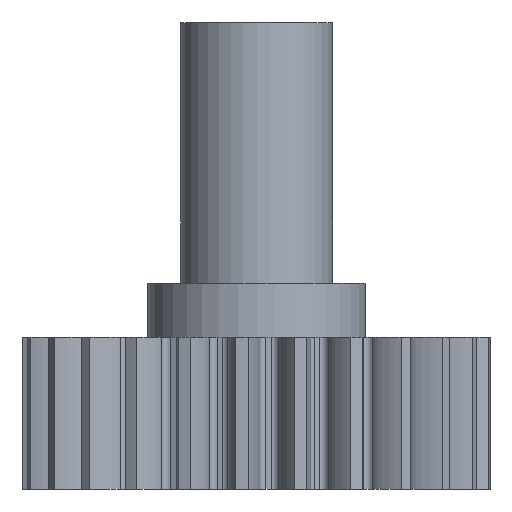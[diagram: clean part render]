
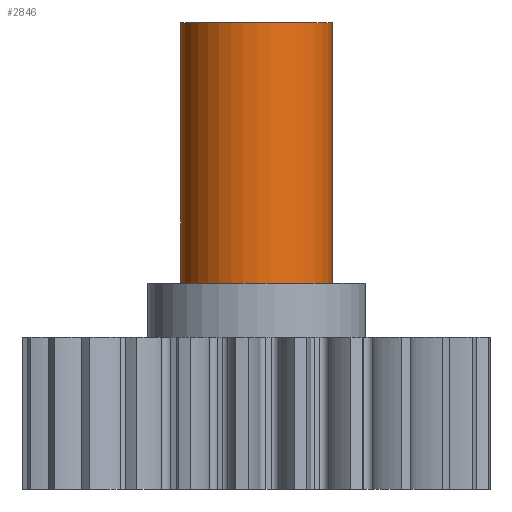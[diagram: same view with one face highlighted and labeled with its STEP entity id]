
A CAD part, front view. The second image highlights one B-rep face of the part: STEP entity #2846.
In plain terms, the highlighted cylindrical face has radius 4.445 mm (diameter 8.89 mm), a full revolution.
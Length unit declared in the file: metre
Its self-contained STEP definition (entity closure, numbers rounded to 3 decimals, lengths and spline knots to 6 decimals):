
#483=ORIENTED_EDGE('',*,*,#1415,.T.);
#484=ORIENTED_EDGE('',*,*,#1416,.F.);
#1415=EDGE_CURVE('',#1881,#1881,#2193,.T.);
#1416=EDGE_CURVE('',#1882,#1882,#2194,.T.);
#1881=VERTEX_POINT('',#4148);
#1882=VERTEX_POINT('',#4150);
#2193=CIRCLE('',#3023,0.004445);
#2194=CIRCLE('',#3024,0.004445);
#2402=EDGE_LOOP('',(#483));
#2403=EDGE_LOOP('',(#484));
#2572=FACE_BOUND('',#2402,.T.);
#2573=FACE_BOUND('',#2403,.T.);
#2742=CYLINDRICAL_SURFACE('',#3022,0.004445);
#2846=ADVANCED_FACE('',(#2572,#2573),#2742,.T.);
#3022=AXIS2_PLACEMENT_3D('',#4146,#3346,#3347);
#3023=AXIS2_PLACEMENT_3D('',#4147,#3348,#3349);
#3024=AXIS2_PLACEMENT_3D('',#4149,#3350,#3351);
#3346=DIRECTION('',(0.,0.,1.));
#3347=DIRECTION('',(1.,0.,0.));
#3348=DIRECTION('',(0.,0.,1.));
#3349=DIRECTION('',(1.,0.,0.));
#3350=DIRECTION('',(0.,0.,1.));
#3351=DIRECTION('',(1.,0.,0.));
#4146=CARTESIAN_POINT('',(0.,-0.045974,0.01905));
#4147=CARTESIAN_POINT('',(0.,-0.045974,0.01905));
#4148=CARTESIAN_POINT('',(0.004445,-0.045974,0.01905));
#4149=CARTESIAN_POINT('',(0.,-0.045974,0.03429));
#4150=CARTESIAN_POINT('',(0.004445,-0.045974,0.03429));
